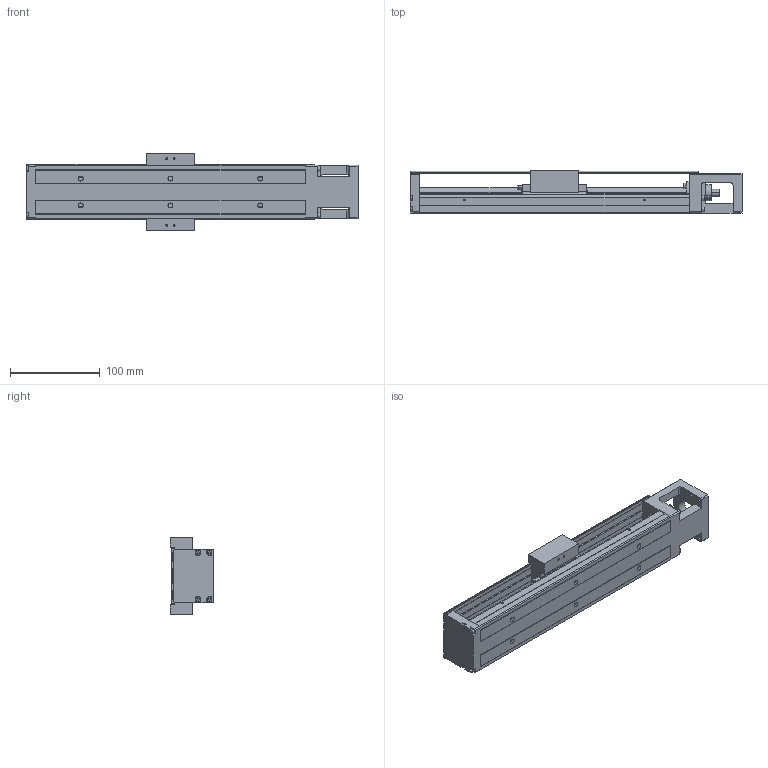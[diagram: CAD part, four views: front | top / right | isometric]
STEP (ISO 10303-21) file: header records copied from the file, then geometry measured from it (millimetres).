
FILE_DESCRIPTION (( 'STEP AP203' ), '1' );
FILE_NAME ('HKK60D10C-300A1-F0C.stp', '2021-11-25T07:12:56', ( '' ), ( '' ), 'SwSTEP 2.0', 'SolidWorks 2018', '' );
FILE_SCHEMA (( 'CONFIG_CONTROL_DESIGN' ));
Length unit declared in the file: millimetre
Products named in the file (1): HKK60D10C-300A1-F0C
Bounding box: 370 x 48 x 86 mm (x, y, z)
Volume: 513986.5 mm3; surface area: 172292.5 mm2
Topology: 2 solids, 10 shells, 803 faces, 2157 edges, 1385 vertices
Faces by surface type: plane 521, cylinder 222, cone 50, torus 8, bspline 2
Entity records: 25311 total; most frequent: CARTESIAN_POINT 5089, ORIENTED_EDGE 4214, DIRECTION 4119, EDGE_CURVE 2107, LINE 1515, VECTOR 1515, VERTEX_POINT 1385, AXIS2_PLACEMENT_3D 1302
